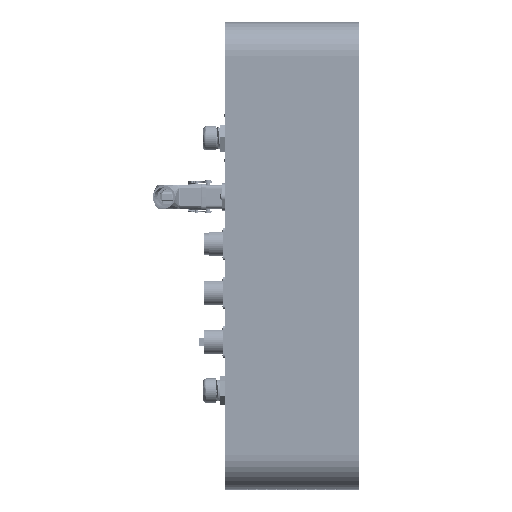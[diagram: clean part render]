
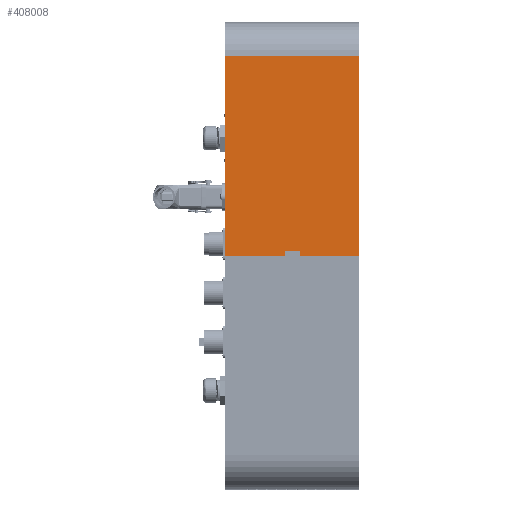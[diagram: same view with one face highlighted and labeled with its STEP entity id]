
A CAD part, top view. The second image highlights one B-rep face of the part: STEP entity #408008.
In plain terms, the highlighted planar face has unit normal (0, 0, 1).
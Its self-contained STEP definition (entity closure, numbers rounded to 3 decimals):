
#14824 = DIRECTION ( 'NONE',  ( 0., 0., 1. ) ) ;
#21538 = EDGE_CURVE ( 'NONE', #278698, #162529, #170752, .T. ) ;
#24728 = ORIENTED_EDGE ( 'NONE', *, *, #245315, .T. ) ;
#39929 = VERTEX_POINT ( 'NONE', #317172 ) ;
#47128 = VERTEX_POINT ( 'NONE', #220018 ) ;
#49302 = CARTESIAN_POINT ( 'NONE',  ( -7.6, -237.75, 181.261 ) ) ;
#49477 = EDGE_CURVE ( 'NONE', #372113, #315567, #354873, .T. ) ;
#56044 = CARTESIAN_POINT ( 'NONE',  ( 68.5, -237.75, 181.261 ) ) ;
#60549 = CARTESIAN_POINT ( 'NONE',  ( 68.5, 0., 181.261 ) ) ;
#60881 = DIRECTION ( 'NONE',  ( 1., 0., 0. ) ) ;
#68688 = EDGE_CURVE ( 'NONE', #162529, #372113, #263086, .T. ) ;
#76885 = EDGE_CURVE ( 'NONE', #89757, #278698, #130059, .T. ) ;
#89757 = VERTEX_POINT ( 'NONE', #49302 ) ;
#118404 = DIRECTION ( 'NONE',  ( 0., 1., 0. ) ) ;
#121160 = CARTESIAN_POINT ( 'NONE',  ( -68.5, 0., 181.261 ) ) ;
#130059 = LINE ( 'NONE', #134043, #229528 ) ;
#134043 = CARTESIAN_POINT ( 'NONE',  ( -7.6, -108.826, 181.261 ) ) ;
#142117 = CARTESIAN_POINT ( 'NONE',  ( 0., -237.75, 181.261 ) ) ;
#145834 = VECTOR ( 'NONE', #335354, 1000. ) ;
#145898 = EDGE_LOOP ( 'NONE', ( #164155, #342645, #254202, #24728, #341553, #199152, #253269, #314155 ) ) ;
#146684 = VECTOR ( 'NONE', #60881, 1000. ) ;
#162529 = VERTEX_POINT ( 'NONE', #188927 ) ;
#163053 = CARTESIAN_POINT ( 'NONE',  ( 7.6, -237.75, 181.261 ) ) ;
#164155 = ORIENTED_EDGE ( 'NONE', *, *, #286651, .F. ) ;
#170752 = LINE ( 'NONE', #246736, #339092 ) ;
#178052 = EDGE_CURVE ( 'NONE', #39929, #182888, #231314, .T. ) ;
#181372 = LINE ( 'NONE', #121160, #320675 ) ;
#182888 = VERTEX_POINT ( 'NONE', #333401 ) ;
#188927 = CARTESIAN_POINT ( 'NONE',  ( 7.6, -232.65, 181.261 ) ) ;
#199152 = ORIENTED_EDGE ( 'NONE', *, *, #21538, .T. ) ;
#205702 = CARTESIAN_POINT ( 'NONE',  ( 0., -237.75, 181.261 ) ) ;
#208375 = DIRECTION ( 'NONE',  ( 1., 0., 0. ) ) ;
#220018 = CARTESIAN_POINT ( 'NONE',  ( -68.5, -237.75, 181.261 ) ) ;
#229528 = VECTOR ( 'NONE', #356499, 1000. ) ;
#231314 = LINE ( 'NONE', #371084, #146684 ) ;
#245315 = EDGE_CURVE ( 'NONE', #47128, #89757, #376844, .T. ) ;
#246736 = CARTESIAN_POINT ( 'NONE',  ( 0., -232.65, 181.261 ) ) ;
#248556 = DIRECTION ( 'NONE',  ( 0., -1., 0. ) ) ;
#253269 = ORIENTED_EDGE ( 'NONE', *, *, #68688, .T. ) ;
#254202 = ORIENTED_EDGE ( 'NONE', *, *, #405702, .F. ) ;
#258142 = AXIS2_PLACEMENT_3D ( 'NONE', #265383, #14824, #393028 ) ;
#263086 = LINE ( 'NONE', #305095, #372112 ) ;
#265383 = CARTESIAN_POINT ( 'NONE',  ( 0., -108.826, 181.261 ) ) ;
#278693 = DIRECTION ( 'NONE',  ( 1., 0., 0. ) ) ;
#278698 = VERTEX_POINT ( 'NONE', #374092 ) ;
#286651 = EDGE_CURVE ( 'NONE', #182888, #315567, #400294, .T. ) ;
#292494 = VECTOR ( 'NONE', #208375, 1000. ) ;
#302804 = PLANE ( 'NONE',  #258142 ) ;
#305095 = CARTESIAN_POINT ( 'NONE',  ( 7.6, -108.826, 181.261 ) ) ;
#314155 = ORIENTED_EDGE ( 'NONE', *, *, #49477, .T. ) ;
#315567 = VERTEX_POINT ( 'NONE', #56044 ) ;
#317172 = CARTESIAN_POINT ( 'NONE',  ( -68.5, -34., 181.261 ) ) ;
#320675 = VECTOR ( 'NONE', #118404, 1000. ) ;
#333401 = CARTESIAN_POINT ( 'NONE',  ( 68.5, -34., 181.261 ) ) ;
#334978 = FACE_OUTER_BOUND ( 'NONE', #145898, .T. ) ;
#335354 = DIRECTION ( 'NONE',  ( 1., 0., 0. ) ) ;
#339092 = VECTOR ( 'NONE', #278693, 1000. ) ;
#341553 = ORIENTED_EDGE ( 'NONE', *, *, #76885, .T. ) ;
#342645 = ORIENTED_EDGE ( 'NONE', *, *, #178052, .F. ) ;
#354873 = LINE ( 'NONE', #142117, #145834 ) ;
#356499 = DIRECTION ( 'NONE',  ( 0., 1., 0. ) ) ;
#360513 = VECTOR ( 'NONE', #248556, 1000. ) ;
#371084 = CARTESIAN_POINT ( 'NONE',  ( 0., -34., 181.261 ) ) ;
#372112 = VECTOR ( 'NONE', #402092, 1000. ) ;
#372113 = VERTEX_POINT ( 'NONE', #163053 ) ;
#374092 = CARTESIAN_POINT ( 'NONE',  ( -7.6, -232.65, 181.261 ) ) ;
#376844 = LINE ( 'NONE', #205702, #292494 ) ;
#393028 = DIRECTION ( 'NONE',  ( 0., -1., 0. ) ) ;
#400294 = LINE ( 'NONE', #60549, #360513 ) ;
#402092 = DIRECTION ( 'NONE',  ( 0., -1., 0. ) ) ;
#405702 = EDGE_CURVE ( 'NONE', #47128, #39929, #181372, .T. ) ;
#408008 = ADVANCED_FACE ( 'NONE', ( #334978 ), #302804, .T. ) ;
